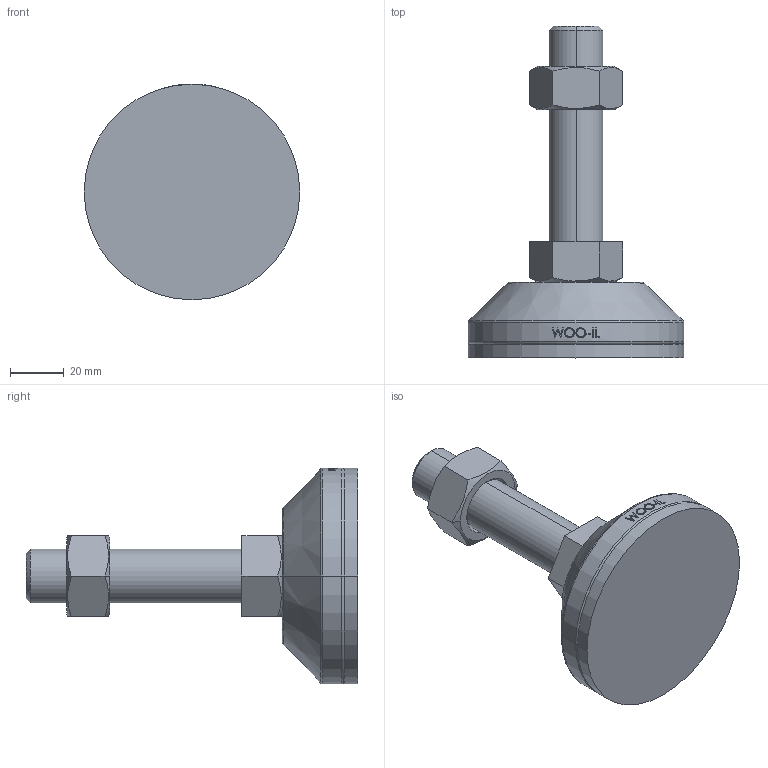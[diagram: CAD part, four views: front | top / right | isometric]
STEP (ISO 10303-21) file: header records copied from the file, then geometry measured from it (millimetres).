
FILE_DESCRIPTION (( 'STEP AP214' ), '1' );
FILE_NAME ('NHNR80-M20-80.step', '2021-01-25T06:22:54', ( '' ), ( '' ), 'SwSTEP 2.0', 'SolidWorks 2019', '' );
FILE_SCHEMA (( 'AUTOMOTIVE_DESIGN' ));
Length unit declared in the file: millimetre
Products named in the file (2): NHNR80-M20-80
Bounding box: 80 x 123 x 80 mm (x, y, z)
Volume: 160011.6 mm3; surface area: 36291.4 mm2
Topology: 4 solids, 4 shells, 105 faces, 239 edges, 152 vertices
Faces by surface type: plane 49, cylinder 18, bspline 16, cone 14, torus 8
Entity records: 4375 total; most frequent: CARTESIAN_POINT 2058, ORIENTED_EDGE 478, DIRECTION 429, EDGE_CURVE 239, AXIS2_PLACEMENT_3D 165, VERTEX_POINT 152, EDGE_LOOP 117, FACE_OUTER_BOUND 105
